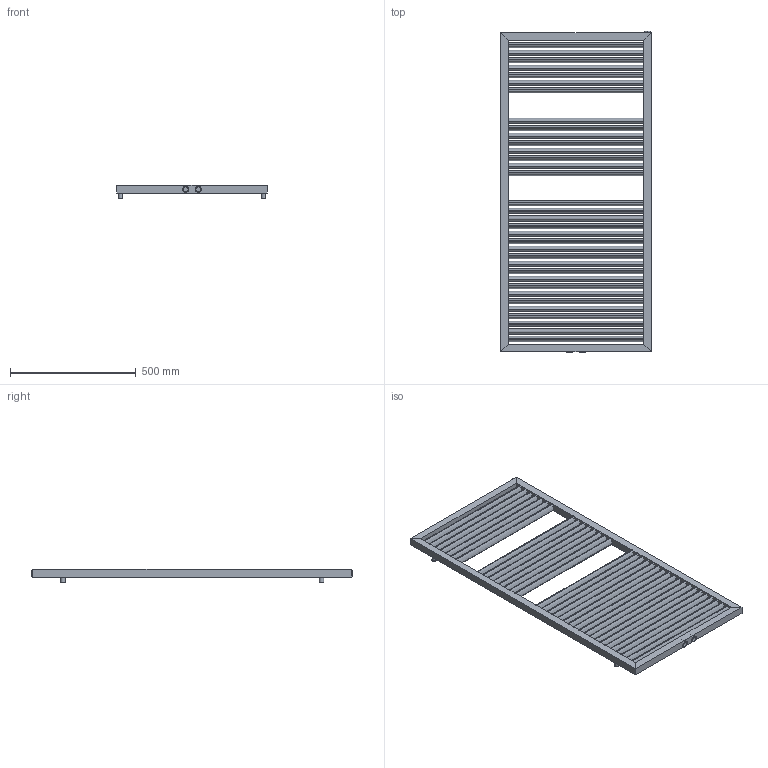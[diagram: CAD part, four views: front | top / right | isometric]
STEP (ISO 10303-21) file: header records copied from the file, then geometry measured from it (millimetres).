
FILE_DESCRIPTION(/* description */ (''),/* implementation_level */ '2;1');
FILE_NAME(/* name */ 'C:\Grzejniki\13DLUXRAD\łazienkowe\WEGA\WEGA 1270x600.iam.stp',/* time_stamp */ '2016-06-28T17:35:40+02:00',/* author */ ('m.szydziak'),/* organization */ (''),/* preprocessor_version */ 'ST-DEVELOPER v16.5',/* originating_system */ 'Autodesk Inventor 2017',/* authorisation */ '');
FILE_SCHEMA (('AUTOMOTIVE_DESIGN { 1 0 10303 214 3 1 1 }'));
Length unit declared in the file: millimetre
Products named in the file (13): WEGA 1270x600; WEGA 1270x600 szkielet; Frame0001; Skeleton0001; ISO 1035/2 - 30 x 30 - 1270; ISO 1035/2 - 30 x 30 - 1270_1; ISO 1035/2 - 30 x 30 - 600; ISO 1035/2 - 30 x 30 - 600_1; 30x20x1,2x540; korek; uchwyt stały; ZDC dzwonki krótkie; dzwonek krótki G0,5inch
Assembly tree (49 placements, depth 3):
  WEGA 1270x600
    WEGA 1270x600 szkielet
    Frame0001
      Skeleton0001
      ISO 1035/2 - 30 x 30 - 1270
      ISO 1035/2 - 30 x 30 - 1270_1
      ISO 1035/2 - 30 x 30 - 600
      ISO 1035/2 - 30 x 30 - 600_1
    30x20x1,2x540  x34
    korek
    uchwyt stały  x4
    ZDC dzwonki krótkie
      dzwonek krótki G0,5inch  x2
Bounding box: 600 x 1281 x 52 mm (x, y, z)
Volume: 4971445 mm3; surface area: 3287441.1 mm2
Topology: 45 solids, 79 shells, 539 faces, 1149 edges, 772 vertices
Faces by surface type: cylinder 353, plane 186
Full cylindrical faces by diameter (mm): 15 x4, 18 x4, 18.631 x2, 24 x1, 25 x2
Entity records: 2310 total; most frequent: DIRECTION 414, CARTESIAN_POINT 343, ORIENTED_EDGE 246, AXIS2_PLACEMENT_3D 164, EDGE_CURVE 123, LINE 86, VECTOR 86, VERTEX_POINT 85
